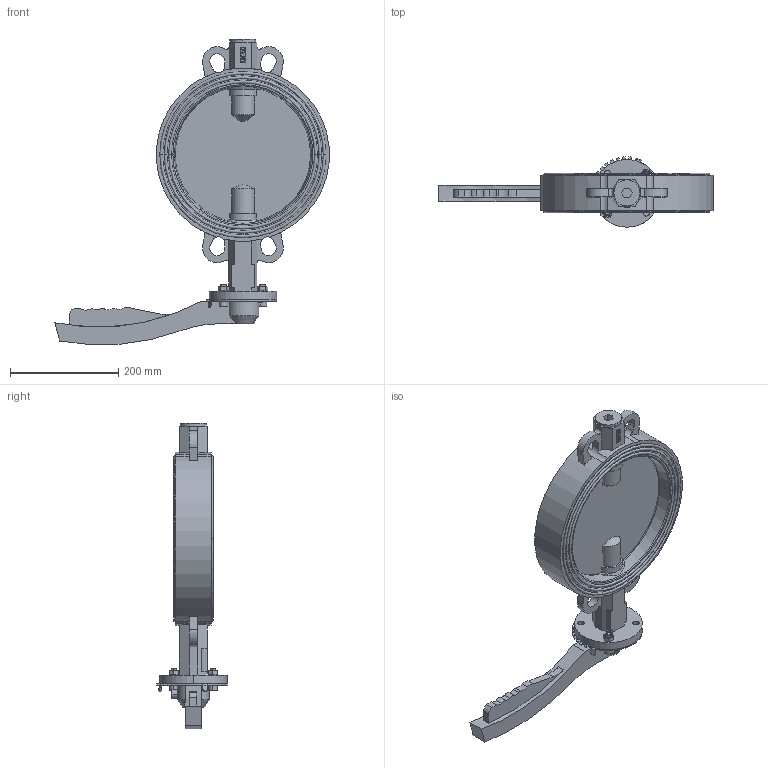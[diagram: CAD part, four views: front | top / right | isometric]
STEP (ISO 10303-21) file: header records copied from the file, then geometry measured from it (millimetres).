
FILE_DESCRIPTION((''),'2;1');
FILE_NAME('SB_RUCHKA_ASM','2023-12-24T',('DIMA'),(''),'PRO/ENGINEER BY PARAMETRIC TECHNOLOGY CORPORATION, 2008020','PRO/ENGINEER BY PARAMETRIC TECHNOLOGY CORPORATION, 2008020','');
FILE_SCHEMA(('CONFIG_CONTROL_DESIGN'));
Length unit declared in the file: millimetre
Products named in the file (19): KORPUS; REZ; DISK; SHTIR_1; ZAGLUSHKA; O-RING; SHTIR_2; SHAIBA_RAZREZ; SHAIBA; KOLCO_40_GOST13943; VTULKA; MANZET_REZ; SB_ASM; PLASTINA; RUCHKA; V-11738-M10X30; G-5915-M10; V-11738-M10X20; SB_RUCHKA_ASM
Assembly tree (26 placements, depth 3):
  SB_RUCHKA_ASM
    SB_ASM
      KORPUS
      REZ
      DISK
      SHTIR_1
      ZAGLUSHKA
      O-RING  x2
      SHTIR_2
      SHAIBA_RAZREZ
      SHAIBA  x2
      KOLCO_40_GOST13943
      VTULKA  x5
      MANZET_REZ
    PLASTINA
    RUCHKA
    V-11738-M10X30  x2
    G-5915-M10  x2
    V-11738-M10X20
Bounding box: 506.93 x 129.96 x 563.99 mm (x, y, z)
Volume: 4012633.9 mm3; surface area: 811613.4 mm2
Topology: 25 solids, 32 shells, 733 faces, 1907 edges, 1253 vertices
Faces by surface type: plane 426, cylinder 224, cone 51, torus 28, bspline 4
Entity records: 21828 total; most frequent: CARTESIAN_POINT 4336, DIRECTION 3708, ORIENTED_EDGE 3484, EDGE_CURVE 1755, AXIS2_PLACEMENT_3D 1295, VERTEX_POINT 1155, VECTOR 1118, LINE 1118
